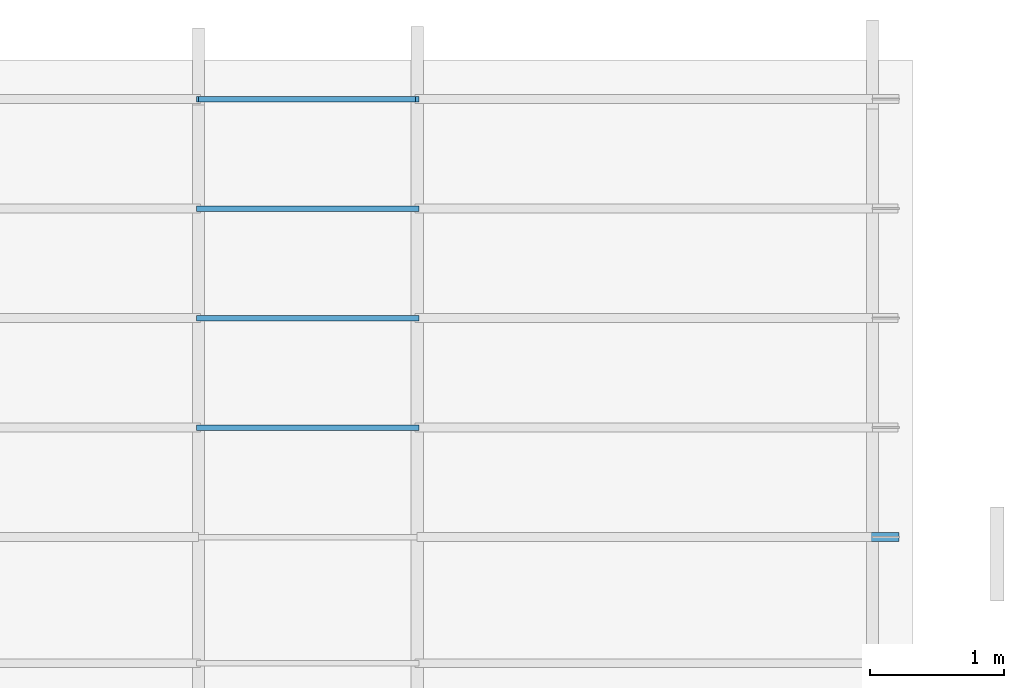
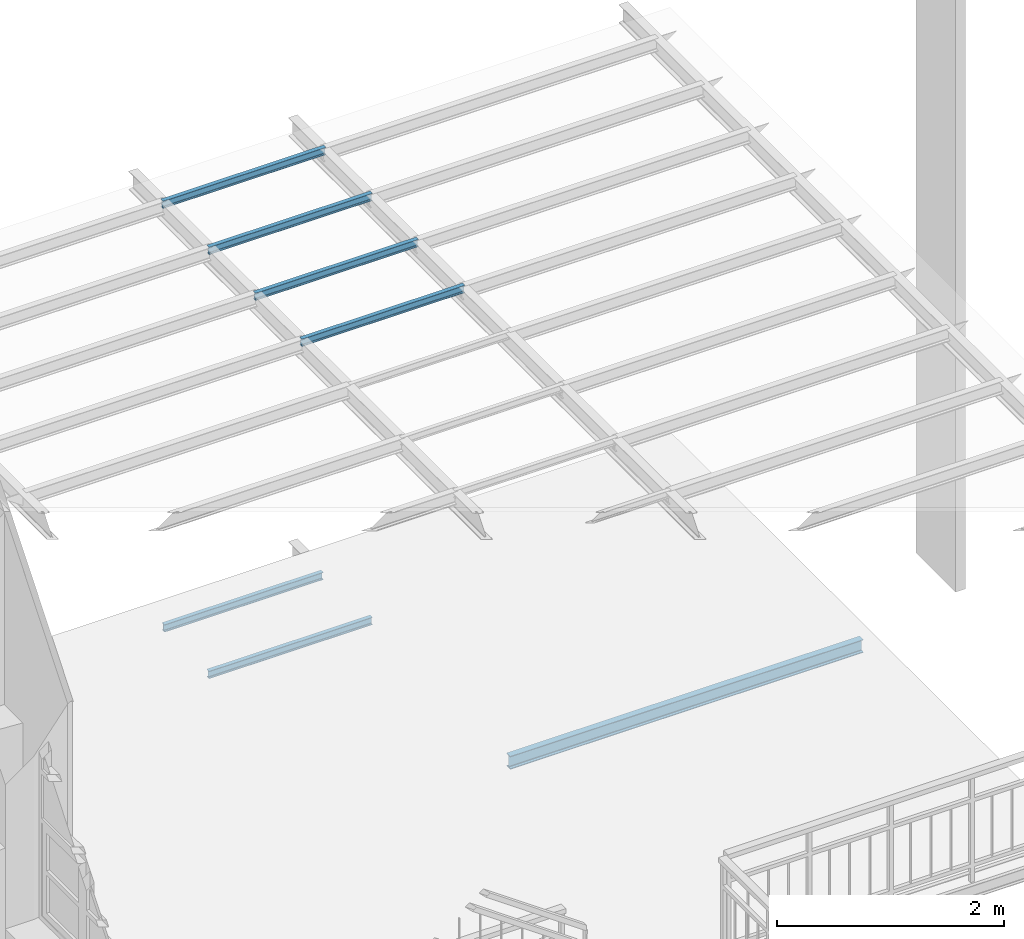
# One storey, part 20 of 33: 7 beams.
"""IFC2X3 building model written with IfcOpenShell, lengths in metres."""

from ifc_helpers import new_model, entity, si_unit, converted_unit, derived_unit, direction, frame, frame_2d, origin, place, context, subcontext, project, spatial, polyline, circle_curve, parameter, trimmed, segment, composite_curve, outline, extrude, material, type_object, element, save


model = new_model("IFC2X3")

# Units and contexts
model_context = context("Model", 3, precision=1e-05, world=origin(), true_north=direction((6.12303176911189e-17, 1.0)))
body_context = subcontext(model_context, "Body", "Model", "MODEL_VIEW")
ifc_project = project(units=[si_unit("LENGTHUNIT", "METRE"), si_unit("AREAUNIT", "SQUARE_METRE"), si_unit("VOLUMEUNIT", "CUBIC_METRE"), converted_unit("PLANEANGLEUNIT", "DEGREE", entity("IfcRatioMeasure", 0.0174532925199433), si_unit("PLANEANGLEUNIT", "RADIAN"), dimensions=[0, 0, 0, 0, 0, 0, 0]), si_unit("MASSUNIT", "GRAM", prefix="KILO"), derived_unit("MASSDENSITYUNIT", [(si_unit("MASSUNIT", "GRAM", prefix="KILO"), 1), (si_unit("LENGTHUNIT", "METRE"), -3)]), derived_unit("MOMENTOFINERTIAUNIT", [(si_unit("LENGTHUNIT", "METRE"), 4)]), si_unit("TIMEUNIT", "SECOND"), si_unit("FREQUENCYUNIT", "HERTZ"), si_unit("THERMODYNAMICTEMPERATUREUNIT", "DEGREE_CELSIUS"), derived_unit("THERMALTRANSMITTANCEUNIT", [(si_unit("MASSUNIT", "GRAM", prefix="KILO"), 1), (si_unit("THERMODYNAMICTEMPERATUREUNIT", "KELVIN"), -1), (si_unit("TIMEUNIT", "SECOND"), -3)]), derived_unit("VOLUMETRICFLOWRATEUNIT", [(si_unit("LENGTHUNIT", "METRE"), 3), (si_unit("TIMEUNIT", "SECOND"), -1)]), si_unit("ELECTRICCURRENTUNIT", "AMPERE"), si_unit("ELECTRICVOLTAGEUNIT", "VOLT"), si_unit("POWERUNIT", "WATT"), si_unit("FORCEUNIT", "NEWTON", prefix="KILO"), si_unit("ILLUMINANCEUNIT", "LUX"), si_unit("LUMINOUSFLUXUNIT", "LUMEN"), si_unit("LUMINOUSINTENSITYUNIT", "CANDELA"), derived_unit("USERDEFINED", [(si_unit("MASSUNIT", "GRAM", prefix="KILO"), -1), (si_unit("LENGTHUNIT", "METRE"), -2), (si_unit("TIMEUNIT", "SECOND"), 3), (si_unit("LUMINOUSFLUXUNIT", "LUMEN"), 1)]), derived_unit("LINEARVELOCITYUNIT", [(si_unit("LENGTHUNIT", "METRE"), 1), (si_unit("TIMEUNIT", "SECOND"), -1)]), si_unit("PRESSUREUNIT", "PASCAL"), derived_unit("USERDEFINED", [(si_unit("LENGTHUNIT", "METRE"), -2), (si_unit("MASSUNIT", "GRAM", prefix="KILO"), 1), (si_unit("TIMEUNIT", "SECOND"), -2)]), derived_unit("LINEARFORCEUNIT", [(si_unit("MASSUNIT", "GRAM", prefix="KILO"), 1), (si_unit("LENGTHUNIT", "METRE"), 1), (si_unit("TIMEUNIT", "SECOND"), -2), (si_unit("LENGTHUNIT", "METRE"), -1)]), derived_unit("PLANARFORCEUNIT", [(si_unit("MASSUNIT", "GRAM", prefix="KILO"), 1), (si_unit("LENGTHUNIT", "METRE"), 1), (si_unit("TIMEUNIT", "SECOND"), -2), (si_unit("LENGTHUNIT", "METRE"), -2)])], contexts=[model_context])

# Site, building, storey
site_placement = place(None, origin())
site = spatial("IfcSite", under=ifc_project, at=site_placement, Name="Superficie", CompositionType="ELEMENT")
building_placement = place(site_placement, origin())
building = spatial("IfcBuilding", under=site, at=building_placement, Name="Telegestiones", CompositionType="ELEMENT")
storey_placement = place(building_placement, frame((0.0, 0.0, 4.94)))
storey = spatial("IfcBuildingStorey", under=building, at=storey_placement, Name="Nivel 1_NPT", CompositionType="ELEMENT", Elevation=4.94)

# Beams
ifc_material = material(Name="Metal - Acero - 345 MPa")
beam_type_1 = type_object("IfcBeamType", Name="IPN - Secciones en I con alas cónicas:IPN 140", PredefinedType="NOTDEFINED")
beam_1_placement = place(storey_placement, frame((11.2718126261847, 10.1916072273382, 0.0)))
element("IfcBeam", 1, at=beam_1_placement, inside=storey, type_object=beam_type_1, material=ifc_material, Name="IPN - Secciones en I con alas cónicas:IPN 140", ObjectType="IPN - Secciones en I con alas cónicas:IPN 140", context=body_context, shape_type="SweptSolid", body=[
    extrude(outline(composite_curve([segment(polyline([(0.066667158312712, -0.0329999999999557), (0.0700000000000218, -0.0329999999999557)]), True, "CONTINUOUS"), segment(polyline([(0.0700000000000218, -0.0329999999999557), (0.0699999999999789, 0.0330000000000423)]), True, "CONTINUOUS"), segment(polyline([(0.0699999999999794, 0.0330000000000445), (0.0666671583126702, 0.0330000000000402)]), True, "CONTINUOUS"), segment(trimmed(circle_curve(frame_2d((0.0666671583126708, 0.0296000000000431), x_axis=(0.0, 1.0)), 0.00339999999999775), [parameter(0.0)], [parameter(82.0303896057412)], True, "PARAMETER"), True, "CONTINUOUS"), segment(polyline([(0.0632999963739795, 0.0300714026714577), (0.060176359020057, 0.00775970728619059)]), True, "CONTINUOUS"), segment(trimmed(circle_curve(frame_2d((0.0545314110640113, 0.00855000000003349), x_axis=(0.990341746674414, -0.138647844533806)), 0.00570000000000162), [parameter(277.96961039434)], [parameter(0.0)], True, "PARAMETER"), False, "CONTINUOUS"), segment(polyline([(0.0545314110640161, 0.00285000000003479), (-0.0545314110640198, 0.00284999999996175)]), True, "CONTINUOUS"), segment(trimmed(circle_curve(frame_2d((-0.0545314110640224, 0.00854999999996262), x_axis=(0.0, -1.0)), 0.00570000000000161), [parameter(277.969610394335)], [parameter(0.0)], True, "PARAMETER"), False, "CONTINUOUS"), segment(polyline([(-0.0601763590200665, 0.00775970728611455), (-0.0632999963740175, 0.0300714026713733)]), True, "CONTINUOUS"), segment(trimmed(circle_curve(frame_2d((-0.0666671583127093, 0.0295999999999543), x_axis=(0.990341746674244, 0.138647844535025)), 0.00339999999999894), [parameter(0.0)], [parameter(82.0303896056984)], True, "PARAMETER"), True, "CONTINUOUS"), segment(polyline([(-0.0666671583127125, 0.0329999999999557), (-0.0700000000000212, 0.0329999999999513)]), True, "CONTINUOUS"), segment(polyline([(-0.0700000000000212, 0.0329999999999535), (-0.0699999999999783, -0.0330000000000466)]), True, "CONTINUOUS"), segment(polyline([(-0.0699999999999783, -0.0330000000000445), (-0.0666671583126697, -0.0330000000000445)]), True, "CONTINUOUS"), segment(trimmed(circle_curve(frame_2d((-0.0666671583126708, -0.0296000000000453), x_axis=(0.0, -1.0)), 0.00339999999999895), [parameter(0.0)], [parameter(82.0303896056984)], True, "PARAMETER"), True, "CONTINUOUS"), segment(polyline([(-0.0632999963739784, -0.0300714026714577), (-0.0601763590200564, -0.00775970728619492)]), True, "CONTINUOUS"), segment(trimmed(circle_curve(frame_2d((-0.0545314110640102, -0.00855000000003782), x_axis=(-0.990341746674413, 0.138647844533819)), 0.00570000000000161), [parameter(277.969610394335)], [parameter(0.0)], True, "PARAMETER"), False, "CONTINUOUS"), segment(polyline([(-0.054531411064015, -0.00285000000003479), (0.0545314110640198, -0.00284999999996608)]), True, "CONTINUOUS"), segment(trimmed(circle_curve(frame_2d((0.0545314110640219, -0.00854999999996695), x_axis=(0.0, 1.0)), 0.00570000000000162), [parameter(277.96961039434)], [parameter(0.0)], True, "PARAMETER"), False, "CONTINUOUS"), segment(polyline([(0.0601763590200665, -0.00775970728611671), (0.0632999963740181, -0.0300714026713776)]), True, "CONTINUOUS"), segment(trimmed(circle_curve(frame_2d((0.0666671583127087, -0.0295999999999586), x_axis=(-0.990341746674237, -0.138647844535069)), 0.00339999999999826), [parameter(0.0)], [parameter(82.030389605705)], True, "PARAMETER"), True, "CONTINUOUS")], self_intersect=False)), frame((0.00136480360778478, 0.0, -0.100000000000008), z_axis=(1.0, 0.0, 0.0), x_axis=(0.0, 0.0, -1.0)), (0.0, 0.0, 1.0), 3.59099999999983),
])
beam_type_2 = type_object("IfcBeamType", Name="IPN - Secciones en I con alas cónicas:IPN 80", PredefinedType="NOTDEFINED")
beam_2_placement = place(storey_placement, frame((9.6448126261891, 13.4536072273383, 0.0)))
element("IfcBeam", 2, at=beam_2_placement, inside=storey, type_object=beam_type_2, material=ifc_material, Name="IPN - Secciones en I con alas cónicas:IPN 80", ObjectType="IPN - Secciones en I con alas cónicas:IPN 80", context=body_context, shape_type="SweptSolid", body=[
    extrude(outline(composite_curve([segment(polyline([(0.0375704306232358, -0.0210000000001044), (0.039999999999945, -0.0210000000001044)]), True, "CONTINUOUS"), segment(polyline([(0.039999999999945, -0.0210000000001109), (0.0400000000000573, 0.0209999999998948)]), True, "CONTINUOUS"), segment(polyline([(0.0400000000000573, 0.0209999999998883), (0.0375704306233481, 0.0209999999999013)]), True, "CONTINUOUS"), segment(trimmed(circle_curve(frame_2d((0.0375704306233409, 0.0186999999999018), x_axis=(0.0, 1.0)), 0.00229999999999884), [parameter(0.0)], [parameter(82.0303896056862)], True, "PARAMETER"), True, "CONTINUOUS"), segment(polyline([(0.0352926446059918, 0.0190188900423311), (0.0333732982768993, 0.00530927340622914)]), True, "CONTINUOUS"), segment(trimmed(circle_curve(frame_2d((0.0295109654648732, 0.00584999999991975), x_axis=(0.990341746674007, -0.138647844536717)), 0.00389999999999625), [parameter(277.969610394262)], [parameter(0.0)], True, "PARAMETER"), False, "CONTINUOUS"), segment(polyline([(0.0295109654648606, 0.00194999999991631), (-0.0295109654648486, 0.00195000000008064)]), True, "CONTINUOUS"), segment(trimmed(circle_curve(frame_2d((-0.0295109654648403, 0.00585000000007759), x_axis=(0.0, -1.0)), 0.00389999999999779), [parameter(277.969610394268)], [parameter(0.0)], True, "PARAMETER"), False, "CONTINUOUS"), segment(polyline([(-0.0333732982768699, 0.00530927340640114), (-0.035292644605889, 0.0190188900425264)]), True, "CONTINUOUS"), segment(trimmed(circle_curve(frame_2d((-0.0375704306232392, 0.0187000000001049), x_axis=(0.990341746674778, 0.138647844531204)), 0.00229999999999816), [parameter(0.0)], [parameter(82.0303896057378)], True, "PARAMETER"), True, "CONTINUOUS"), segment(polyline([(-0.0375704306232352, 0.0210000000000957), (-0.0399999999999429, 0.0210000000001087)]), True, "CONTINUOUS"), segment(polyline([(-0.0399999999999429, 0.0210000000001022), (-0.0400000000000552, -0.0209999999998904)]), True, "CONTINUOUS"), segment(polyline([(-0.0400000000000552, -0.0209999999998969), (-0.0375704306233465, -0.0209999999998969)]), True, "CONTINUOUS"), segment(trimmed(circle_curve(frame_2d((-0.0375704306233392, -0.0186999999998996), x_axis=(0.0, -1.0)), 0.00229999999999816), [parameter(0.0)], [parameter(82.0303896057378)], True, "PARAMETER"), True, "CONTINUOUS"), segment(polyline([(-0.0352926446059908, -0.0190188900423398), (-0.0333732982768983, -0.00530927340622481)]), True, "CONTINUOUS"), segment(trimmed(circle_curve(frame_2d((-0.0295109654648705, -0.00584999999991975), x_axis=(-0.990341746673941, 0.138647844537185)), 0.0038999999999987), [parameter(277.969610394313)], [parameter(0.0)], True, "PARAMETER"), False, "CONTINUOUS"), segment(polyline([(-0.029510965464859, -0.00194999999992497), (0.0295109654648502, -0.00195000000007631)]), True, "CONTINUOUS"), segment(trimmed(circle_curve(frame_2d((0.0295109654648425, -0.00585000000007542), x_axis=(0.0, 1.0)), 0.00389999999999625), [parameter(277.969610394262)], [parameter(0.0)], True, "PARAMETER"), False, "CONTINUOUS"), segment(polyline([(0.0333732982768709, -0.0053092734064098), (0.0352926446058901, -0.0190188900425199)]), True, "CONTINUOUS"), segment(trimmed(circle_curve(frame_2d((0.0375704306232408, -0.0187000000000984), x_axis=(-0.990341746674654, -0.138647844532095)), 0.00229999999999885), [parameter(0.0)], [parameter(82.0303896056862)], True, "PARAMETER"), True, "CONTINUOUS")], self_intersect=False)), frame((0.0, 0.0, -0.0700000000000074), z_axis=(1.0, 0.0, 0.0), x_axis=(0.0, 0.0, -1.0)), (0.0, 0.0, 1.0), 1.616),
])
beam_3_placement = place(storey_placement, frame((9.64481262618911, 12.6381072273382, 0.0)))
element("IfcBeam", 3, at=beam_3_placement, inside=storey, type_object=beam_type_2, material=ifc_material, Name="IPN - Secciones en I con alas cónicas:IPN 80", ObjectType="IPN - Secciones en I con alas cónicas:IPN 80", context=body_context, shape_type="SweptSolid", body=[
    extrude(outline(composite_curve([segment(polyline([(0.0375704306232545, -0.0210000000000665), (0.0399999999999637, -0.0210000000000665)]), True, "CONTINUOUS"), segment(polyline([(0.0399999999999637, -0.021000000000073), (0.0400000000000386, 0.0209999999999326)]), True, "CONTINUOUS"), segment(polyline([(0.0400000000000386, 0.0209999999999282), (0.0375704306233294, 0.0209999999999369)]), True, "CONTINUOUS"), segment(trimmed(circle_curve(frame_2d((0.0375704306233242, 0.0186999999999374), x_axis=(0.0, 1.0)), 0.00229999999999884), [parameter(0.0)], [parameter(82.0303896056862)], True, "PARAMETER"), True, "CONTINUOUS"), segment(polyline([(0.0352926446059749, 0.0190188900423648), (0.0333732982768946, 0.00530927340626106)]), True, "CONTINUOUS"), segment(trimmed(circle_curve(frame_2d((0.029510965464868, 0.00584999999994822), x_axis=(0.99034174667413, -0.138647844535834)), 0.00389999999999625), [parameter(277.969610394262)], [parameter(0.0)], True, "PARAMETER"), False, "CONTINUOUS"), segment(polyline([(0.0295109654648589, 0.00194999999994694), (-0.0295109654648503, 0.0019500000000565)]), True, "CONTINUOUS"), segment(trimmed(circle_curve(frame_2d((-0.0295109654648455, 0.00585000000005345), x_axis=(0.0, -1.0)), 0.00389999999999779), [parameter(277.969610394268)], [parameter(0.0)], True, "PARAMETER"), False, "CONTINUOUS"), segment(polyline([(-0.0333732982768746, 0.00530927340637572), (-0.035292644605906, 0.0190188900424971)]), True, "CONTINUOUS"), segment(trimmed(circle_curve(frame_2d((-0.0375704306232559, 0.0187000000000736), x_axis=(0.990341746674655, 0.138647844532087)), 0.00229999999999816), [parameter(0.0)], [parameter(82.0303896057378)], True, "PARAMETER"), True, "CONTINUOUS"), segment(polyline([(-0.037570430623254, 0.0210000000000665), (-0.0399999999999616, 0.0210000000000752)]), True, "CONTINUOUS"), segment(polyline([(-0.0399999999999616, 0.0210000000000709), (-0.0400000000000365, -0.0209999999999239)]), True, "CONTINUOUS"), segment(polyline([(-0.0400000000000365, -0.0209999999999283), (-0.0375704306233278, -0.0209999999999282)]), True, "CONTINUOUS"), segment(trimmed(circle_curve(frame_2d((-0.0375704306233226, -0.0186999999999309), x_axis=(0.0, -1.0)), 0.00229999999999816), [parameter(0.0)], [parameter(82.0303896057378)], True, "PARAMETER"), True, "CONTINUOUS"), segment(polyline([(-0.0352926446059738, -0.0190188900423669), (-0.0333732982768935, -0.0053092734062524)]), True, "CONTINUOUS"), segment(trimmed(circle_curve(frame_2d((-0.0295109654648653, -0.00584999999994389), x_axis=(-0.990341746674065, 0.138647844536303)), 0.0038999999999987), [parameter(277.969610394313)], [parameter(0.0)], True, "PARAMETER"), False, "CONTINUOUS"), segment(polyline([(-0.0295109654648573, -0.00194999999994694), (0.0295109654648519, -0.00195000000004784)]), True, "CONTINUOUS"), segment(trimmed(circle_curve(frame_2d((0.0295109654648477, -0.00585000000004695), x_axis=(0.0, 1.0)), 0.00389999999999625), [parameter(277.969610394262)], [parameter(0.0)], True, "PARAMETER"), False, "CONTINUOUS"), segment(polyline([(0.0333732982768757, -0.00530927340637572), (0.0352926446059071, -0.0190188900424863)]), True, "CONTINUOUS"), segment(trimmed(circle_curve(frame_2d((0.0375704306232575, -0.0187000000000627), x_axis=(-0.99034174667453, -0.138647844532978)), 0.00229999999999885), [parameter(0.0)], [parameter(82.0303896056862)], True, "PARAMETER"), True, "CONTINUOUS")], self_intersect=False)), frame((-0.0149999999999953, 0.0, -0.0700000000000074), z_axis=(1.0, 0.0, 0.0), x_axis=(0.0, 0.0, -1.0)), (0.0, 0.0, 1.0), 1.66),
])
beam_4_placement = place(storey_placement, frame((9.6448126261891, 13.4536072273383, 4.56)))
element("IfcBeam", 4, at=beam_4_placement, inside=storey, type_object=beam_type_2, material=ifc_material, Name="IPN - Secciones en I con alas cónicas:IPN 80", ObjectType="IPN - Secciones en I con alas cónicas:IPN 80", context=body_context, shape_type="SweptSolid", body=[
    extrude(outline(composite_curve([segment(polyline([(0.0375704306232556, -0.0210000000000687), (0.0399999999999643, -0.0210000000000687)]), True, "CONTINUOUS"), segment(polyline([(0.0399999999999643, -0.0210000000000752), (0.0400000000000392, 0.0209999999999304)]), True, "CONTINUOUS"), segment(polyline([(0.0400000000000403, 0.0209999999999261), (0.0375704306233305, 0.0209999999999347)]), True, "CONTINUOUS"), segment(trimmed(circle_curve(frame_2d((0.0375704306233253, 0.0186999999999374), x_axis=(0.0, 1.0)), 0.00229999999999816), [parameter(0.0)], [parameter(82.0303896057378)], True, "PARAMETER"), True, "CONTINUOUS"), segment(polyline([(0.0352926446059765, 0.0190188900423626), (0.0333732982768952, 0.00530927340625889)]), True, "CONTINUOUS"), segment(trimmed(circle_curve(frame_2d((0.029510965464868, 0.00584999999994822), x_axis=(0.990341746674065, -0.138647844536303)), 0.0038999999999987), [parameter(277.969610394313)], [parameter(0.0)], True, "PARAMETER"), False, "CONTINUOUS"), segment(polyline([(0.0295109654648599, 0.00194999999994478), (-0.0295109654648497, 0.00195000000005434)]), True, "CONTINUOUS"), segment(trimmed(circle_curve(frame_2d((-0.029510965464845, 0.00585000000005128), x_axis=(0.0, -1.0)), 0.00389999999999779), [parameter(277.969610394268)], [parameter(0.0)], True, "PARAMETER"), False, "CONTINUOUS"), segment(polyline([(-0.0333732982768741, 0.00530927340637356), (-0.0352926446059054, 0.0190188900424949)]), True, "CONTINUOUS"), segment(trimmed(circle_curve(frame_2d((-0.0375704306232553, 0.0187000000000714), x_axis=(0.990341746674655, 0.138647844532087)), 0.00229999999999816), [parameter(0.0)], [parameter(82.0303896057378)], True, "PARAMETER"), True, "CONTINUOUS"), segment(polyline([(-0.0375704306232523, 0.0210000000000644), (-0.03999999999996, 0.021000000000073)]), True, "CONTINUOUS"), segment(polyline([(-0.03999999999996, 0.0210000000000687), (-0.0400000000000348, -0.0209999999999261)]), True, "CONTINUOUS"), segment(polyline([(-0.0400000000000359, -0.0209999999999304), (-0.0375704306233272, -0.0209999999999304)]), True, "CONTINUOUS"), segment(trimmed(circle_curve(frame_2d((-0.037570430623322, -0.0186999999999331), x_axis=(0.0, -1.0)), 0.00229999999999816), [parameter(0.0)], [parameter(82.0303896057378)], True, "PARAMETER"), True, "CONTINUOUS"), segment(polyline([(-0.0352926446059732, -0.0190188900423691), (-0.033373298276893, -0.00530927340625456)]), True, "CONTINUOUS"), segment(trimmed(circle_curve(frame_2d((-0.0295109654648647, -0.00584999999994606), x_axis=(-0.990341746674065, 0.138647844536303)), 0.0038999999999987), [parameter(277.969610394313)], [parameter(0.0)], True, "PARAMETER"), False, "CONTINUOUS"), segment(polyline([(-0.0295109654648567, -0.00194999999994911), (0.029510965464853, -0.00195000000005)]), True, "CONTINUOUS"), segment(trimmed(circle_curve(frame_2d((0.0295109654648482, -0.00585000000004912), x_axis=(0.0, 1.0)), 0.0038999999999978), [parameter(277.969610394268)], [parameter(0.0)], True, "PARAMETER"), False, "CONTINUOUS"), segment(polyline([(0.0333732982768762, -0.00530927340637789), (0.0352926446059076, -0.0190188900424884)]), True, "CONTINUOUS"), segment(trimmed(circle_curve(frame_2d((0.0375704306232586, -0.0187000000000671), x_axis=(-0.990341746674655, -0.138647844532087)), 0.00229999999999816), [parameter(0.0)], [parameter(82.0303896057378)], True, "PARAMETER"), True, "CONTINUOUS")], self_intersect=False)), frame((-0.0149999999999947, 0.0, -0.0700000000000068), z_axis=(1.0, 0.0, 0.0), x_axis=(0.0, 0.0, -1.0)), (0.0, 0.0, 1.0), 1.66),
])
beam_5_placement = place(storey_placement, frame((9.64481262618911, 12.6381072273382, 4.56)))
element("IfcBeam", 5, at=beam_5_placement, inside=storey, type_object=beam_type_2, material=ifc_material, Name="IPN - Secciones en I con alas cónicas:IPN 80", ObjectType="IPN - Secciones en I con alas cónicas:IPN 80", context=body_context, shape_type="SweptSolid", body=[
    extrude(outline(composite_curve([segment(polyline([(0.0375704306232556, -0.0210000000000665), (0.0399999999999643, -0.0210000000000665)]), True, "CONTINUOUS"), segment(polyline([(0.0399999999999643, -0.021000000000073), (0.0400000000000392, 0.0209999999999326)]), True, "CONTINUOUS"), segment(polyline([(0.0400000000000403, 0.0209999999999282), (0.0375704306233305, 0.0209999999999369)]), True, "CONTINUOUS"), segment(trimmed(circle_curve(frame_2d((0.0375704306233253, 0.0186999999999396), x_axis=(0.0, 1.0)), 0.00229999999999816), [parameter(0.0)], [parameter(82.0303896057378)], True, "PARAMETER"), True, "CONTINUOUS"), segment(polyline([(0.0352926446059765, 0.0190188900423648), (0.0333732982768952, 0.00530927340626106)]), True, "CONTINUOUS"), segment(trimmed(circle_curve(frame_2d((0.029510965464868, 0.00584999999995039), x_axis=(0.990341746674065, -0.138647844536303)), 0.0038999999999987), [parameter(277.969610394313)], [parameter(0.0)], True, "PARAMETER"), False, "CONTINUOUS"), segment(polyline([(0.0295109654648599, 0.00194999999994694), (-0.0295109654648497, 0.0019500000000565)]), True, "CONTINUOUS"), segment(trimmed(circle_curve(frame_2d((-0.029510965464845, 0.00585000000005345), x_axis=(0.0, -1.0)), 0.00389999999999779), [parameter(277.969610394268)], [parameter(0.0)], True, "PARAMETER"), False, "CONTINUOUS"), segment(polyline([(-0.0333732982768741, 0.00530927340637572), (-0.0352926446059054, 0.0190188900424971)]), True, "CONTINUOUS"), segment(trimmed(circle_curve(frame_2d((-0.0375704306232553, 0.0187000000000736), x_axis=(0.990341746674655, 0.138647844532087)), 0.00229999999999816), [parameter(0.0)], [parameter(82.0303896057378)], True, "PARAMETER"), True, "CONTINUOUS"), segment(polyline([(-0.0375704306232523, 0.0210000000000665), (-0.03999999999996, 0.0210000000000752)]), True, "CONTINUOUS"), segment(polyline([(-0.03999999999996, 0.0210000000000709), (-0.0400000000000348, -0.0209999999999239)]), True, "CONTINUOUS"), segment(polyline([(-0.0400000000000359, -0.0209999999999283), (-0.0375704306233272, -0.0209999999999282)]), True, "CONTINUOUS"), segment(trimmed(circle_curve(frame_2d((-0.037570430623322, -0.0186999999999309), x_axis=(0.0, -1.0)), 0.00229999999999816), [parameter(0.0)], [parameter(82.0303896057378)], True, "PARAMETER"), True, "CONTINUOUS"), segment(polyline([(-0.0352926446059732, -0.0190188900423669), (-0.033373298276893, -0.0053092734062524)]), True, "CONTINUOUS"), segment(trimmed(circle_curve(frame_2d((-0.0295109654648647, -0.00584999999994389), x_axis=(-0.990341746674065, 0.138647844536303)), 0.0038999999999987), [parameter(277.969610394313)], [parameter(0.0)], True, "PARAMETER"), False, "CONTINUOUS"), segment(polyline([(-0.0295109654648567, -0.00194999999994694), (0.029510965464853, -0.00195000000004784)]), True, "CONTINUOUS"), segment(trimmed(circle_curve(frame_2d((0.0295109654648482, -0.00585000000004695), x_axis=(0.0, 1.0)), 0.0038999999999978), [parameter(277.969610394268)], [parameter(0.0)], True, "PARAMETER"), False, "CONTINUOUS"), segment(polyline([(0.0333732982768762, -0.00530927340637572), (0.0352926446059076, -0.0190188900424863)]), True, "CONTINUOUS"), segment(trimmed(circle_curve(frame_2d((0.0375704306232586, -0.0187000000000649), x_axis=(-0.990341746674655, -0.138647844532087)), 0.00229999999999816), [parameter(0.0)], [parameter(82.0303896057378)], True, "PARAMETER"), True, "CONTINUOUS")], self_intersect=False)), frame((-0.0149999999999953, 0.0, -0.0700000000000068), z_axis=(1.0, 0.0, 0.0), x_axis=(0.0, 0.0, -1.0)), (0.0, 0.0, 1.0), 1.66),
])
beam_6_placement = place(storey_placement, frame((9.64481262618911, 11.8226072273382, 4.56)))
element("IfcBeam", 6, at=beam_6_placement, inside=storey, type_object=beam_type_2, material=ifc_material, Name="IPN - Secciones en I con alas cónicas:IPN 80", ObjectType="IPN - Secciones en I con alas cónicas:IPN 80", context=body_context, shape_type="SweptSolid", body=[
    extrude(outline(composite_curve([segment(polyline([(0.0375704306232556, -0.0210000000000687), (0.0399999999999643, -0.0210000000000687)]), True, "CONTINUOUS"), segment(polyline([(0.0399999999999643, -0.0210000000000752), (0.0400000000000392, 0.0209999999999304)]), True, "CONTINUOUS"), segment(polyline([(0.0400000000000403, 0.0209999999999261), (0.0375704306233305, 0.0209999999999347)]), True, "CONTINUOUS"), segment(trimmed(circle_curve(frame_2d((0.0375704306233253, 0.0186999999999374), x_axis=(0.0, 1.0)), 0.00229999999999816), [parameter(0.0)], [parameter(82.0303896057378)], True, "PARAMETER"), True, "CONTINUOUS"), segment(polyline([(0.0352926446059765, 0.0190188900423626), (0.0333732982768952, 0.00530927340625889)]), True, "CONTINUOUS"), segment(trimmed(circle_curve(frame_2d((0.029510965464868, 0.00584999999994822), x_axis=(0.990341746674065, -0.138647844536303)), 0.0038999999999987), [parameter(277.969610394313)], [parameter(0.0)], True, "PARAMETER"), False, "CONTINUOUS"), segment(polyline([(0.0295109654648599, 0.00194999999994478), (-0.0295109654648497, 0.00195000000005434)]), True, "CONTINUOUS"), segment(trimmed(circle_curve(frame_2d((-0.029510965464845, 0.00585000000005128), x_axis=(0.0, -1.0)), 0.00389999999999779), [parameter(277.969610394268)], [parameter(0.0)], True, "PARAMETER"), False, "CONTINUOUS"), segment(polyline([(-0.0333732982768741, 0.00530927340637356), (-0.0352926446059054, 0.0190188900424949)]), True, "CONTINUOUS"), segment(trimmed(circle_curve(frame_2d((-0.0375704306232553, 0.0187000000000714), x_axis=(0.990341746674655, 0.138647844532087)), 0.00229999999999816), [parameter(0.0)], [parameter(82.0303896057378)], True, "PARAMETER"), True, "CONTINUOUS"), segment(polyline([(-0.0375704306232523, 0.0210000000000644), (-0.03999999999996, 0.021000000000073)]), True, "CONTINUOUS"), segment(polyline([(-0.03999999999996, 0.0210000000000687), (-0.0400000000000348, -0.0209999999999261)]), True, "CONTINUOUS"), segment(polyline([(-0.0400000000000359, -0.0209999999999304), (-0.0375704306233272, -0.0209999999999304)]), True, "CONTINUOUS"), segment(trimmed(circle_curve(frame_2d((-0.037570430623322, -0.0186999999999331), x_axis=(0.0, -1.0)), 0.00229999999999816), [parameter(0.0)], [parameter(82.0303896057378)], True, "PARAMETER"), True, "CONTINUOUS"), segment(polyline([(-0.0352926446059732, -0.0190188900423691), (-0.033373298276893, -0.00530927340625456)]), True, "CONTINUOUS"), segment(trimmed(circle_curve(frame_2d((-0.0295109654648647, -0.00584999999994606), x_axis=(-0.990341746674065, 0.138647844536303)), 0.0038999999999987), [parameter(277.969610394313)], [parameter(0.0)], True, "PARAMETER"), False, "CONTINUOUS"), segment(polyline([(-0.0295109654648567, -0.00194999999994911), (0.029510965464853, -0.00195000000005)]), True, "CONTINUOUS"), segment(trimmed(circle_curve(frame_2d((0.0295109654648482, -0.00585000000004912), x_axis=(0.0, 1.0)), 0.0038999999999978), [parameter(277.969610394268)], [parameter(0.0)], True, "PARAMETER"), False, "CONTINUOUS"), segment(polyline([(0.0333732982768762, -0.00530927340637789), (0.0352926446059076, -0.0190188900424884)]), True, "CONTINUOUS"), segment(trimmed(circle_curve(frame_2d((0.0375704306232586, -0.0187000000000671), x_axis=(-0.990341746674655, -0.138647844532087)), 0.00229999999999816), [parameter(0.0)], [parameter(82.0303896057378)], True, "PARAMETER"), True, "CONTINUOUS")], self_intersect=False)), frame((-0.0149999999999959, 0.0, -0.0700000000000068), z_axis=(1.0, 0.0, 0.0), x_axis=(0.0, 0.0, -1.0)), (0.0, 0.0, 1.0), 1.66),
])
beam_7_placement = place(storey_placement, frame((9.64481262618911, 11.0071072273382, 4.56)))
element("IfcBeam", 7, at=beam_7_placement, inside=storey, type_object=beam_type_2, material=ifc_material, Name="IPN - Secciones en I con alas cónicas:IPN 80", ObjectType="IPN - Secciones en I con alas cónicas:IPN 80", context=body_context, shape_type="SweptSolid", body=[
    extrude(outline(composite_curve([segment(polyline([(0.0375704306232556, -0.0210000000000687), (0.0399999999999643, -0.0210000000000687)]), True, "CONTINUOUS"), segment(polyline([(0.0399999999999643, -0.0210000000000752), (0.0400000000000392, 0.0209999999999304)]), True, "CONTINUOUS"), segment(polyline([(0.0400000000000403, 0.0209999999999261), (0.0375704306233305, 0.0209999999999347)]), True, "CONTINUOUS"), segment(trimmed(circle_curve(frame_2d((0.0375704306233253, 0.0186999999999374), x_axis=(0.0, 1.0)), 0.00229999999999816), [parameter(0.0)], [parameter(82.0303896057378)], True, "PARAMETER"), True, "CONTINUOUS"), segment(polyline([(0.0352926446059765, 0.0190188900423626), (0.0333732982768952, 0.00530927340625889)]), True, "CONTINUOUS"), segment(trimmed(circle_curve(frame_2d((0.029510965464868, 0.00584999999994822), x_axis=(0.990341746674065, -0.138647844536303)), 0.0038999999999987), [parameter(277.969610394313)], [parameter(0.0)], True, "PARAMETER"), False, "CONTINUOUS"), segment(polyline([(0.0295109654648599, 0.00194999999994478), (-0.0295109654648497, 0.00195000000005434)]), True, "CONTINUOUS"), segment(trimmed(circle_curve(frame_2d((-0.029510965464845, 0.00585000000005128), x_axis=(0.0, -1.0)), 0.00389999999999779), [parameter(277.969610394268)], [parameter(0.0)], True, "PARAMETER"), False, "CONTINUOUS"), segment(polyline([(-0.0333732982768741, 0.00530927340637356), (-0.0352926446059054, 0.0190188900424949)]), True, "CONTINUOUS"), segment(trimmed(circle_curve(frame_2d((-0.0375704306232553, 0.0187000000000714), x_axis=(0.990341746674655, 0.138647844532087)), 0.00229999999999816), [parameter(0.0)], [parameter(82.0303896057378)], True, "PARAMETER"), True, "CONTINUOUS"), segment(polyline([(-0.0375704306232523, 0.0210000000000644), (-0.03999999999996, 0.021000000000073)]), True, "CONTINUOUS"), segment(polyline([(-0.03999999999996, 0.0210000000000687), (-0.0400000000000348, -0.0209999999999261)]), True, "CONTINUOUS"), segment(polyline([(-0.0400000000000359, -0.0209999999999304), (-0.0375704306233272, -0.0209999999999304)]), True, "CONTINUOUS"), segment(trimmed(circle_curve(frame_2d((-0.037570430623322, -0.0186999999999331), x_axis=(0.0, -1.0)), 0.00229999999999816), [parameter(0.0)], [parameter(82.0303896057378)], True, "PARAMETER"), True, "CONTINUOUS"), segment(polyline([(-0.0352926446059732, -0.0190188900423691), (-0.033373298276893, -0.00530927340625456)]), True, "CONTINUOUS"), segment(trimmed(circle_curve(frame_2d((-0.0295109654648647, -0.00584999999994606), x_axis=(-0.990341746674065, 0.138647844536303)), 0.0038999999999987), [parameter(277.969610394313)], [parameter(0.0)], True, "PARAMETER"), False, "CONTINUOUS"), segment(polyline([(-0.0295109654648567, -0.00194999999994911), (0.029510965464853, -0.00195000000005)]), True, "CONTINUOUS"), segment(trimmed(circle_curve(frame_2d((0.0295109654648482, -0.00585000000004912), x_axis=(0.0, 1.0)), 0.0038999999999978), [parameter(277.969610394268)], [parameter(0.0)], True, "PARAMETER"), False, "CONTINUOUS"), segment(polyline([(0.0333732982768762, -0.00530927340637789), (0.0352926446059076, -0.0190188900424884)]), True, "CONTINUOUS"), segment(trimmed(circle_curve(frame_2d((0.0375704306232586, -0.0187000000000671), x_axis=(-0.990341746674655, -0.138647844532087)), 0.00229999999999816), [parameter(0.0)], [parameter(82.0303896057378)], True, "PARAMETER"), True, "CONTINUOUS")], self_intersect=False)), frame((-0.0149999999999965, 0.0, -0.0700000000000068), z_axis=(1.0, 0.0, 0.0), x_axis=(0.0, 0.0, -1.0)), (0.0, 0.0, 1.0), 1.66),
])

save(model, "model.ifc")
